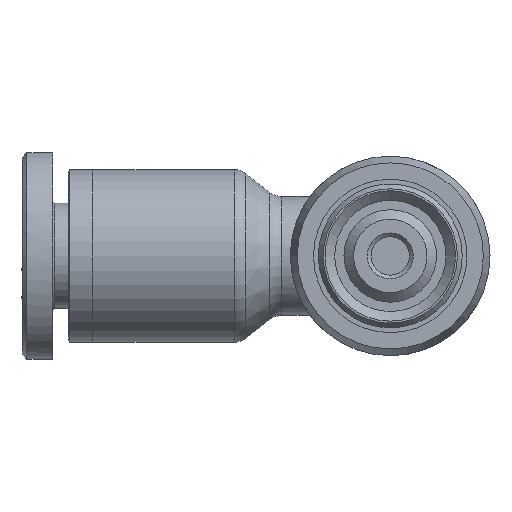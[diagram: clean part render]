
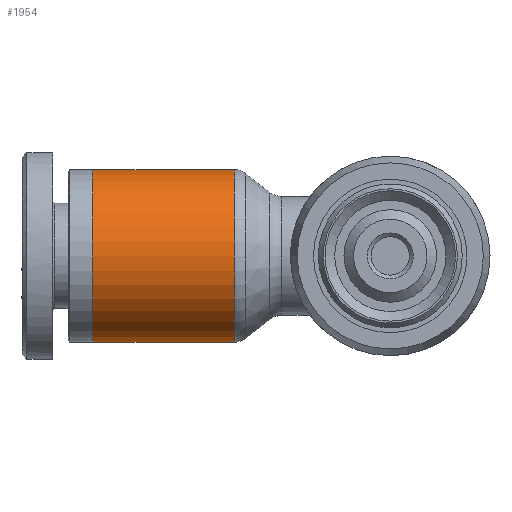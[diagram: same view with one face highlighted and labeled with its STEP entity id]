
A CAD part, left-side view. The second image highlights one B-rep face of the part: STEP entity #1954.
In plain terms, the highlighted cylindrical face has radius 4.5 mm (diameter 9 mm), a full revolution.
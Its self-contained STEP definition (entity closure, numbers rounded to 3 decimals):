
#1892=CARTESIAN_POINT('',(-8.143,4.5,0.0));
#1893=VERTEX_POINT('',#1892);
#1894=CARTESIAN_POINT('',(-8.143,0.,0.0));
#1895=DIRECTION('',(1.0,0.0,0.0));
#1896=DIRECTION('',(0.0,-1.0,0.0));
#1897=AXIS2_PLACEMENT_3D('',#1894,#1895,#1896);
#1898=CIRCLE('',#1897,4.5);
#1899=EDGE_CURVE('',#1893,#1893,#1898,.T.);
#1935=CARTESIAN_POINT('',(-11.65,0.,0.0));
#1936=DIRECTION('',(1.0,0.,0.0));
#1937=DIRECTION('',(0.0,1.0,0.0));
#1938=AXIS2_PLACEMENT_3D('',#1935,#1936,#1937);
#1939=CYLINDRICAL_SURFACE('',#1938,4.5);
#1940=CARTESIAN_POINT('',(-15.5,4.5,0.0));
#1941=VERTEX_POINT('',#1940);
#1942=CARTESIAN_POINT('',(-15.5,0.,0.0));
#1943=DIRECTION('',(1.0,0.0,0.0));
#1944=DIRECTION('',(0.0,1.0,0.0));
#1945=AXIS2_PLACEMENT_3D('',#1942,#1943,#1944);
#1946=CIRCLE('',#1945,4.5);
#1947=EDGE_CURVE('',#1941,#1941,#1946,.T.);
#1948=ORIENTED_EDGE('',*,*,#1947,.T.);
#1949=EDGE_LOOP('',(#1948));
#1950=FACE_OUTER_BOUND('',#1949,.T.);
#1951=ORIENTED_EDGE('',*,*,#1899,.F.);
#1952=EDGE_LOOP('',(#1951));
#1953=FACE_BOUND('',#1952,.T.);
#1954=ADVANCED_FACE('',(#1950,#1953),#1939,.T.);
